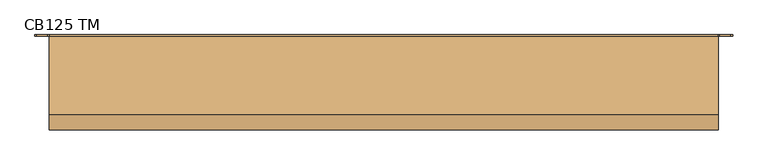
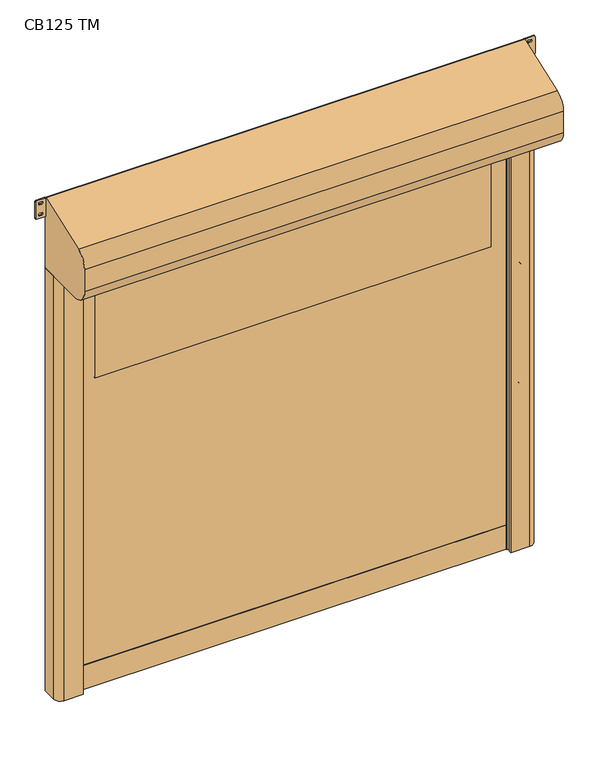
"""IFC4 building model written with IfcOpenShell, lengths in millimetres: door geometry, DO_WPB_Dynamicroll Cleanroom_BMP : CB125 TM."""

from ifc_helpers import new_model, si_unit, point, frame, frame_2d, origin, origin_with_axes, place, context, project, spatial, polyline, circle_curve, trimmed, segment, composite_curve, outline, extrude, source, transform, mapped, element, save


def cb125_tm_9ad30b0c(model_context):
    return source(origin(), model_context, "Body", "SweptSolid", [
        extrude(outline(composite_curve([segment(trimmed(circle_curve(frame_2d((1350.0, 1076.0)), 6.0), [point((1356.0, 1076.0))], [point((1344.0, 1076.0))], False, "CARTESIAN"), True, "CONTINUOUS"), segment(polyline([(1344.0, 1076.0), (1344.0, 1094.0)]), True, "CONTINUOUS"), segment(trimmed(circle_curve(frame_2d((1350.0, 1094.0)), 6.0), [point((1344.0, 1094.0))], [point((1356.0, 1094.0))], False, "CARTESIAN"), True, "CONTINUOUS"), segment(polyline([(1356.0, 1094.0), (1356.0, 1076.0)]), True, "CONTINUOUS")], self_intersect=False)), frame((0.0, -20.0, 0.0), z_axis=(0.0, 1.0, 0.0), x_axis=(0.0, 0.0, 1.0)), (0.0, 0.0, 1.0), 20.0),
        extrude(outline(composite_curve([segment(trimmed(circle_curve(frame_2d((750.0, 1076.0)), 6.0), [point((756.0, 1076.0))], [point((744.0, 1076.0))], False, "CARTESIAN"), True, "CONTINUOUS"), segment(polyline([(744.0, 1076.0), (744.0, 1094.0)]), True, "CONTINUOUS"), segment(trimmed(circle_curve(frame_2d((750.0, 1094.0)), 6.0), [point((744.0, 1094.0))], [point((756.0, 1094.0))], False, "CARTESIAN"), True, "CONTINUOUS"), segment(polyline([(756.0, 1094.0), (756.0, 1076.0)]), True, "CONTINUOUS")], self_intersect=False)), frame((0.0, -20.0, 0.0), z_axis=(0.0, 1.0, 0.0), x_axis=(0.0, 0.0, 1.0)), (0.0, 0.0, 1.0), 20.0),
        extrude(outline(composite_curve([segment(trimmed(circle_curve(frame_2d((1950.0, 1076.0)), 6.0), [point((1956.0, 1076.0))], [point((1944.0, 1076.0))], False, "CARTESIAN"), True, "CONTINUOUS"), segment(polyline([(1944.0, 1076.0), (1944.0, 1094.0)]), True, "CONTINUOUS"), segment(trimmed(circle_curve(frame_2d((1950.0, 1094.0)), 6.0), [point((1944.0, 1094.0))], [point((1956.0, 1094.0))], False, "CARTESIAN"), True, "CONTINUOUS"), segment(polyline([(1956.0, 1094.0), (1956.0, 1076.0)]), True, "CONTINUOUS")], self_intersect=False)), frame((0.0, -20.0, 0.0), z_axis=(0.0, 1.0, 0.0), x_axis=(0.0, 0.0, 1.0)), (0.0, 0.0, 1.0), 20.0),
        extrude(outline(composite_curve([segment(trimmed(circle_curve(frame_2d((150.0, 1076.0)), 6.0), [point((156.0, 1076.0))], [point((144.0, 1076.0))], False, "CARTESIAN"), True, "CONTINUOUS"), segment(polyline([(144.0, 1076.0), (144.0, 1094.0)]), True, "CONTINUOUS"), segment(trimmed(circle_curve(frame_2d((150.0, 1094.0)), 6.0), [point((144.0, 1094.0))], [point((156.0, 1094.0))], False, "CARTESIAN"), True, "CONTINUOUS"), segment(polyline([(156.0, 1094.0), (156.0, 1076.0)]), True, "CONTINUOUS")], self_intersect=False)), frame((0.0, -20.0, 0.0), z_axis=(0.0, 1.0, 0.0), x_axis=(0.0, 0.0, 1.0)), (0.0, 0.0, 1.0), 20.0),
        extrude(outline(composite_curve([segment(polyline([(1356.0, -1076.0), (1356.0, -1094.0)]), True, "CONTINUOUS"), segment(trimmed(circle_curve(frame_2d((1350.0, -1094.0)), 6.0), [point((1356.0, -1094.0))], [point((1344.0, -1094.0))], False, "CARTESIAN"), True, "CONTINUOUS"), segment(polyline([(1344.0, -1094.0), (1344.0, -1076.0)]), True, "CONTINUOUS"), segment(trimmed(circle_curve(frame_2d((1350.0, -1076.0)), 6.0), [point((1344.0, -1076.0))], [point((1356.0, -1076.0))], False, "CARTESIAN"), True, "CONTINUOUS")], self_intersect=False)), frame((0.0, -20.0, 0.0), z_axis=(0.0, 1.0, 0.0), x_axis=(0.0, 0.0, 1.0)), (0.0, 0.0, 1.0), 20.0),
        extrude(outline(composite_curve([segment(polyline([(756.0, -1076.0), (756.0, -1094.0)]), True, "CONTINUOUS"), segment(trimmed(circle_curve(frame_2d((750.0, -1094.0)), 6.0), [point((756.0, -1094.0))], [point((744.0, -1094.0))], False, "CARTESIAN"), True, "CONTINUOUS"), segment(polyline([(744.0, -1094.0), (744.0, -1076.0)]), True, "CONTINUOUS"), segment(trimmed(circle_curve(frame_2d((750.0, -1076.0)), 6.0), [point((744.0, -1076.0))], [point((756.0, -1076.0))], False, "CARTESIAN"), True, "CONTINUOUS")], self_intersect=False)), frame((0.0, -20.0, 0.0), z_axis=(0.0, 1.0, 0.0), x_axis=(0.0, 0.0, 1.0)), (0.0, 0.0, 1.0), 20.0),
        extrude(outline(composite_curve([segment(polyline([(1956.0, -1076.0), (1956.0, -1094.0)]), True, "CONTINUOUS"), segment(trimmed(circle_curve(frame_2d((1950.0, -1094.0)), 6.0), [point((1956.0, -1094.0))], [point((1944.0, -1094.0))], False, "CARTESIAN"), True, "CONTINUOUS"), segment(polyline([(1944.0, -1094.0), (1944.0, -1076.0)]), True, "CONTINUOUS"), segment(trimmed(circle_curve(frame_2d((1950.0, -1076.0)), 6.0), [point((1944.0, -1076.0))], [point((1956.0, -1076.0))], False, "CARTESIAN"), True, "CONTINUOUS")], self_intersect=False)), frame((0.0, -20.0, 0.0), z_axis=(0.0, 1.0, 0.0), x_axis=(0.0, 0.0, 1.0)), (0.0, 0.0, 1.0), 20.0),
        extrude(outline(composite_curve([segment(polyline([(156.0, -1076.0), (156.0, -1094.0)]), True, "CONTINUOUS"), segment(trimmed(circle_curve(frame_2d((150.0, -1094.0)), 6.0), [point((156.0, -1094.0))], [point((144.0, -1094.0))], False, "CARTESIAN"), True, "CONTINUOUS"), segment(polyline([(144.0, -1094.0), (144.0, -1076.0)]), True, "CONTINUOUS"), segment(trimmed(circle_curve(frame_2d((150.0, -1076.0)), 6.0), [point((144.0, -1076.0))], [point((156.0, -1076.0))], False, "CARTESIAN"), True, "CONTINUOUS")], self_intersect=False)), frame((0.0, -20.0, 0.0), z_axis=(0.0, 1.0, 0.0), x_axis=(0.0, 0.0, 1.0)), (0.0, 0.0, 1.0), 20.0),
        extrude(outline(composite_curve([segment(trimmed(circle_curve(frame_2d((1526.0, 929.0)), 1.0), [point((1525.0, 929.0))], [point((1526.0, 930.0))], False, "CARTESIAN"), True, "CONTINUOUS"), segment(polyline([(1526.0, 930.0), (2024.0, 930.0)]), True, "CONTINUOUS"), segment(trimmed(circle_curve(frame_2d((2024.0, 929.0)), 1.0), [point((2024.0, 930.0))], [point((2025.0, 929.0))], False, "CARTESIAN"), True, "CONTINUOUS"), segment(polyline([(2025.0, 929.0), (2025.0, -929.0)]), True, "CONTINUOUS"), segment(trimmed(circle_curve(frame_2d((2024.0, -929.0)), 1.0), [point((2025.0, -929.0))], [point((2024.0, -930.0))], False, "CARTESIAN"), True, "CONTINUOUS"), segment(polyline([(2024.0, -930.0), (1526.0, -930.0)]), True, "CONTINUOUS"), segment(trimmed(circle_curve(frame_2d((1526.0, -929.0)), 1.0), [point((1526.0, -930.0))], [point((1525.0, -929.0))], False, "CARTESIAN"), True, "CONTINUOUS"), segment(polyline([(1525.0, -929.0), (1525.0, 929.0)]), True, "CONTINUOUS")], self_intersect=False)), frame((0.0, -68.5, 0.0), z_axis=(0.0, 1.0, 0.0), x_axis=(0.0, 0.0, 1.0)), (0.0, 0.0, 1.0), 7.0),
        extrude(outline(polyline([(120.0, -1012.0), (120.0, 1012.0), (2275.0, 1012.0), (2275.0, -1012.0), (120.0, -1012.0)]), holes=[composite_curve([segment(trimmed(circle_curve(frame_2d((1526.0, 929.0)), 1.0), [point((1526.0, 930.0))], [point((1525.0, 929.0))], True, "CARTESIAN"), True, "CONTINUOUS"), segment(polyline([(1525.0, 929.0), (1525.0, -929.0)]), True, "CONTINUOUS"), segment(trimmed(circle_curve(frame_2d((1526.0, -929.0)), 1.0), [point((1525.0, -929.0))], [point((1526.0, -930.0))], True, "CARTESIAN"), True, "CONTINUOUS"), segment(polyline([(1526.0, -930.0), (2024.0, -930.0)]), True, "CONTINUOUS"), segment(trimmed(circle_curve(frame_2d((2024.0, -929.0)), 1.0), [point((2024.0, -930.0))], [point((2025.0, -929.0))], True, "CARTESIAN"), True, "CONTINUOUS"), segment(polyline([(2025.0, -929.0), (2025.0, 929.0)]), True, "CONTINUOUS"), segment(trimmed(circle_curve(frame_2d((2024.0, 929.0)), 1.0), [point((2025.0, 929.0))], [point((2024.0, 930.0))], True, "CARTESIAN"), True, "CONTINUOUS"), segment(polyline([(2024.0, 930.0), (1526.0, 930.0)]), True, "CONTINUOUS")], self_intersect=False)]), frame((0.0, -68.5, 0.0), z_axis=(0.0, 1.0, 0.0), x_axis=(0.0, 0.0, 1.0)), (0.0, 0.0, 1.0), 7.0),
        extrude(outline(polyline([(-1012.0, -59.5), (1012.0, -59.5), (1012.0, -70.5), (-1012.0, -70.5), (-1012.0, -59.5)])), origin_with_axes(), (0.0, 0.0, 1.0), 120.0),
        extrude(outline(composite_curve([segment(trimmed(circle_curve(frame_2d((2363.75, 1130.75)), 5.75), [point((2363.75, 1125.0))], [point((2358.0, 1130.75))], False, "CARTESIAN"), True, "CONTINUOUS"), segment(polyline([(2358.0, 1130.75), (2358.0, 1168.25)]), True, "CONTINUOUS"), segment(trimmed(circle_curve(frame_2d((2363.75, 1168.25)), 5.75), [point((2358.0, 1168.25))], [point((2363.75, 1174.0))], False, "CARTESIAN"), True, "CONTINUOUS"), segment(polyline([(2363.75, 1174.0), (2444.25, 1174.0)]), True, "CONTINUOUS"), segment(trimmed(circle_curve(frame_2d((2444.25, 1168.25)), 5.75), [point((2444.25, 1174.0))], [point((2450.0, 1168.25))], False, "CARTESIAN"), True, "CONTINUOUS"), segment(polyline([(2450.0, 1168.25), (2450.0, 1130.75)]), True, "CONTINUOUS"), segment(trimmed(circle_curve(frame_2d((2444.25, 1130.75)), 5.75), [point((2450.0, 1130.75))], [point((2444.25, 1125.0))], False, "CARTESIAN"), True, "CONTINUOUS"), segment(polyline([(2444.25, 1125.0), (2363.75, 1125.0)]), True, "CONTINUOUS")], self_intersect=False), holes=[composite_curve([segment(trimmed(circle_curve(frame_2d((2376.5, 1153.75)), 5.75), [point((2382.25, 1153.75))], [point((2370.75, 1153.75))], True, "CARTESIAN"), True, "CONTINUOUS"), segment(polyline([(2370.75, 1153.75), (2370.75, 1145.25)]), True, "CONTINUOUS"), segment(trimmed(circle_curve(frame_2d((2376.5, 1145.25)), 5.75), [point((2370.75, 1145.25))], [point((2382.25, 1145.25))], True, "CARTESIAN"), True, "CONTINUOUS"), segment(polyline([(2382.25, 1145.25), (2382.25, 1153.75)]), True, "CONTINUOUS")], self_intersect=False), composite_curve([segment(trimmed(circle_curve(frame_2d((2431.5, 1153.75)), 5.75), [point((2437.25, 1153.75))], [point((2425.75, 1153.75))], True, "CARTESIAN"), True, "CONTINUOUS"), segment(polyline([(2425.75, 1153.75), (2425.75, 1145.25)]), True, "CONTINUOUS"), segment(trimmed(circle_curve(frame_2d((2431.5, 1145.25)), 5.75), [point((2425.75, 1145.25))], [point((2437.25, 1145.25))], True, "CARTESIAN"), True, "CONTINUOUS"), segment(polyline([(2437.25, 1145.25), (2437.25, 1153.75)]), True, "CONTINUOUS")], self_intersect=False)]), frame((0.0, -5.0, 0.0), z_axis=(0.0, 1.0, 0.0), x_axis=(0.0, 0.0, 1.0)), (0.0, 0.0, 1.0), 5.0),
        extrude(outline(composite_curve([segment(trimmed(circle_curve(frame_2d((2363.75, -1168.25)), 5.75), [point((2363.75, -1174.0))], [point((2358.0, -1168.25))], False, "CARTESIAN"), True, "CONTINUOUS"), segment(polyline([(2358.0, -1168.25), (2358.0, -1130.75)]), True, "CONTINUOUS"), segment(trimmed(circle_curve(frame_2d((2363.75, -1130.75)), 5.75), [point((2358.0, -1130.75))], [point((2363.75, -1125.0))], False, "CARTESIAN"), True, "CONTINUOUS"), segment(polyline([(2363.75, -1125.0), (2444.25, -1125.0)]), True, "CONTINUOUS"), segment(trimmed(circle_curve(frame_2d((2444.25, -1130.75)), 5.75), [point((2444.25, -1125.0))], [point((2450.0, -1130.75))], False, "CARTESIAN"), True, "CONTINUOUS"), segment(polyline([(2450.0, -1130.75), (2450.0, -1168.25)]), True, "CONTINUOUS"), segment(trimmed(circle_curve(frame_2d((2444.25, -1168.25)), 5.75), [point((2450.0, -1168.25))], [point((2444.25, -1174.0))], False, "CARTESIAN"), True, "CONTINUOUS"), segment(polyline([(2444.25, -1174.0), (2363.75, -1174.0)]), True, "CONTINUOUS")], self_intersect=False), holes=[composite_curve([segment(trimmed(circle_curve(frame_2d((2376.5, -1145.25)), 5.75), [point((2382.25, -1145.25))], [point((2370.75, -1145.25))], True, "CARTESIAN"), True, "CONTINUOUS"), segment(polyline([(2370.75, -1145.25), (2370.75, -1153.75)]), True, "CONTINUOUS"), segment(trimmed(circle_curve(frame_2d((2376.5, -1153.75)), 5.75), [point((2370.75, -1153.75))], [point((2382.25, -1153.75))], True, "CARTESIAN"), True, "CONTINUOUS"), segment(polyline([(2382.25, -1153.75), (2382.25, -1145.25)]), True, "CONTINUOUS")], self_intersect=False), composite_curve([segment(trimmed(circle_curve(frame_2d((2431.5, -1145.25)), 5.75), [point((2437.25, -1145.25))], [point((2425.75, -1145.25))], True, "CARTESIAN"), True, "CONTINUOUS"), segment(polyline([(2425.75, -1145.25), (2425.75, -1153.75)]), True, "CONTINUOUS"), segment(trimmed(circle_curve(frame_2d((2431.5, -1153.75)), 5.75), [point((2425.75, -1153.75))], [point((2437.25, -1153.75))], True, "CARTESIAN"), True, "CONTINUOUS"), segment(polyline([(2437.25, -1153.75), (2437.25, -1145.25)]), True, "CONTINUOUS")], self_intersect=False)]), frame((0.0, -5.0, 0.0), z_axis=(0.0, 1.0, 0.0), x_axis=(0.0, 0.0, 1.0)), (0.0, 0.0, 1.0), 5.0),
        extrude(outline(composite_curve([segment(polyline([(-1125.0, 0.0), (-1015.0, 0.0), (-1015.0, -49.2857143), (-1035.0, -55.0), (-1000.0, -55.0), (-1000.0, -61.5), (-1020.0, -61.5), (-1020.0, -68.5), (-1000.0, -68.5), (-1000.0, -75.0), (-1035.0, -75.0), (-1035.0, -90.0), (-1005.0, -90.0), (-1005.0, -100.0), (-1095.0, -100.0)]), True, "CONTINUOUS"), segment(trimmed(circle_curve(frame_2d((-1095.0, -70.0)), 30.0), [point((-1095.0, -100.0))], [point((-1125.0, -70.0))], False, "CARTESIAN"), True, "CONTINUOUS"), segment(polyline([(-1125.0, -70.0), (-1125.0, 0.0)]), True, "CONTINUOUS")], self_intersect=False)), origin_with_axes(), (0.0, 0.0, 1.0), 2100.0),
        extrude(outline(composite_curve([segment(polyline([(1125.0, 0.0), (1125.0, -70.0)]), True, "CONTINUOUS"), segment(trimmed(circle_curve(frame_2d((1095.0, -70.0)), 30.0), [point((1125.0, -70.0))], [point((1095.0, -100.0))], False, "CARTESIAN"), True, "CONTINUOUS"), segment(polyline([(1095.0, -100.0), (1005.0, -100.0), (1005.0, -90.0), (1035.0, -90.0), (1035.0, -75.0), (1000.0, -75.0), (1000.0, -68.5), (1020.0, -68.5), (1020.0, -61.5), (1000.0, -61.5), (1000.0, -55.0), (1035.0, -55.0), (1015.0, -49.2857143), (1015.0, 0.0), (1125.0, 0.0)]), True, "CONTINUOUS")], self_intersect=False)), origin_with_axes(), (0.0, 0.0, 1.0), 2100.0),
        extrude(outline(composite_curve([segment(trimmed(circle_curve(frame_2d((-5.0, 2105.0)), 5.0), [point((0.0, 2105.0))], [point((-5.0, 2100.0))], False, "CARTESIAN"), True, "CONTINUOUS"), segment(polyline([(-5.0, 2100.0), (-245.0, 2100.0)]), True, "CONTINUOUS"), segment(trimmed(circle_curve(frame_2d((-245.0, 2175.0)), 75.0), [point((-245.0, 2100.0))], [point((-320.0, 2175.0))], False, "CARTESIAN"), True, "CONTINUOUS"), segment(polyline([(-320.0, 2175.0), (-320.0, 2283.4562366)]), True, "CONTINUOUS"), segment(trimmed(circle_curve(frame_2d((-245.0, 2283.4562366)), 75.0), [point((-320.0, 2283.4562366))], [point((-270.6515107, 2353.9331832))], False, "CARTESIAN"), True, "CONTINUOUS"), segment(polyline([(-270.6515107, 2353.9331832), (-6.7101007, 2450.0)]), True, "CONTINUOUS"), segment(trimmed(circle_curve(frame_2d((-5.0, 2445.3015369)), 5.0), [point((-6.7101007, 2450.0))], [point((0.0, 2445.3015369))], False, "CARTESIAN"), True, "CONTINUOUS"), segment(polyline([(0.0, 2445.3015369), (0.0, 2105.0)]), True, "CONTINUOUS")], self_intersect=False)), frame((-1125.0, 0.0, 0.0), z_axis=(1.0, 0.0, 0.0), x_axis=(0.0, 1.0, 0.0)), (0.0, 0.0, 1.0), 2250.0),
    ])


if __name__ == "__main__":
    model = new_model("IFC4")
    model_context = context("Model", 3, world=origin())
    ifc_project = project(units=[si_unit("LENGTHUNIT", "METRE", prefix="MILLI")], contexts=[model_context])
    site = spatial("IfcSite", under=ifc_project)
    building = spatial("IfcBuilding", under=site)
    placement = place(None, origin())
    cb125_tm_shape = cb125_tm_9ad30b0c(model_context)
    element("IfcDoor", 1, ObjectType="DO_WPB_Dynamicroll Cleanroom_BMP : CB125 TM", at=placement, inside=building, context=model_context, shape_type="MappedRepresentation", body=[
        mapped(cb125_tm_shape, transform((0.0, 0.0, 0.0), x_axis=(1.0, 0.0, 0.0), y_axis=(0.0, 1.0, 0.0), z_axis=(0.0, 0.0, 1.0))),
    ])
    save(model, "model.ifc")
